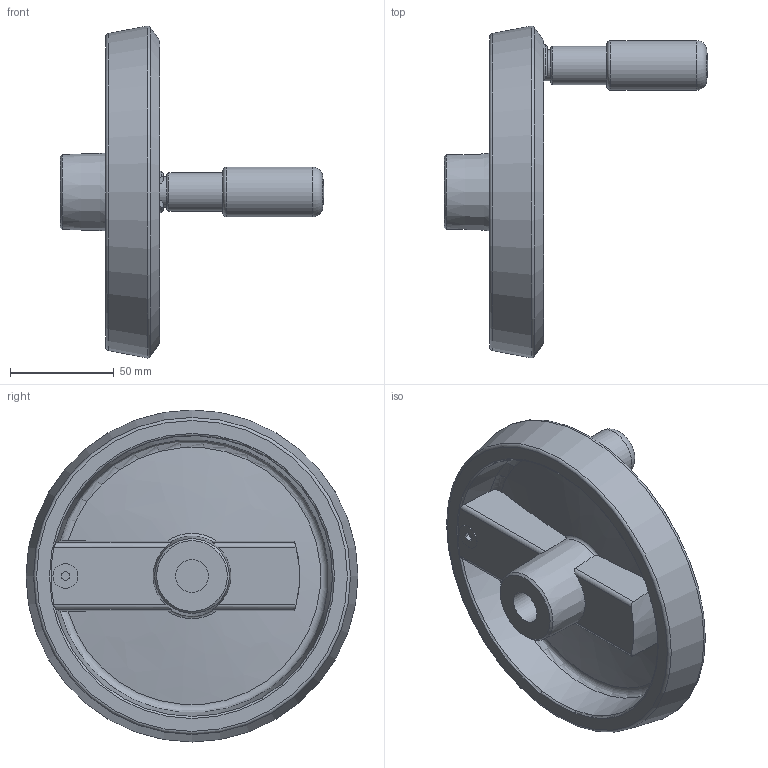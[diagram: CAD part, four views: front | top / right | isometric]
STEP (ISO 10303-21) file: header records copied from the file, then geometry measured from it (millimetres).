
FILE_DESCRIPTION( ( 'STEP AP203' ), '1' );
FILE_NAME( 'C:/Temp/Ganter_Step_05_03_2020/data/1_3/gn_923_7/gn_923_7_b/Handwheel with retractable handle GN 923.7-160-B16-R-SR (activated).stp', '2020-03-05T10:40:10', ( 'License CC BY-ND 4.0' ), ( 'CADENAS' ), ' ', 'PARTsolutions', ' ' );
FILE_SCHEMA( ( 'CONFIG_CONTROL_DESIGN' ) );
Length unit declared in the file: millimetre
Products named in the file (3): Handwheel with retractable handle GN 923.7-160-B16-R-SR (activated); _Umleggriff-Handrad GN 923.7-160-B16-R-SR-1; _Umleggriff-Handrad GN 923.7-160-B16-R-SR (90)-2
Assembly tree (2 placements, depth 2):
  Handwheel with retractable handle GN 923.7-160-B16-R-SR (activated)
    _Umleggriff-Handrad GN 923.7-160-B16-R-SR-1
    _Umleggriff-Handrad GN 923.7-160-B16-R-SR (90)-2
Bounding box: 127.2 x 160 x 160 mm (x, y, z)
Volume: 265240.8 mm3; surface area: 78632.9 mm2
Topology: 2 solids, 2 shells, 108 faces, 259 edges, 163 vertices
Faces by surface type: plane 45, cylinder 29, torus 14, cone 12, bspline 6, sphere 2
Full cylindrical faces by diameter (mm): 4 x2, 5 x1, 8 x1, 12 x1, 15 x1, 16 x1, 18.5 x1, 20 x1, 23 x2, 24 x1
Entity records: 3521 total; most frequent: CARTESIAN_POINT 1081, DIRECTION 489, ORIENTED_EDGE 450, EDGE_CURVE 225, AXIS2_PLACEMENT_3D 209, VERTEX_POINT 157, EDGE_LOOP 145, FACE_OUTER_BOUND 127
